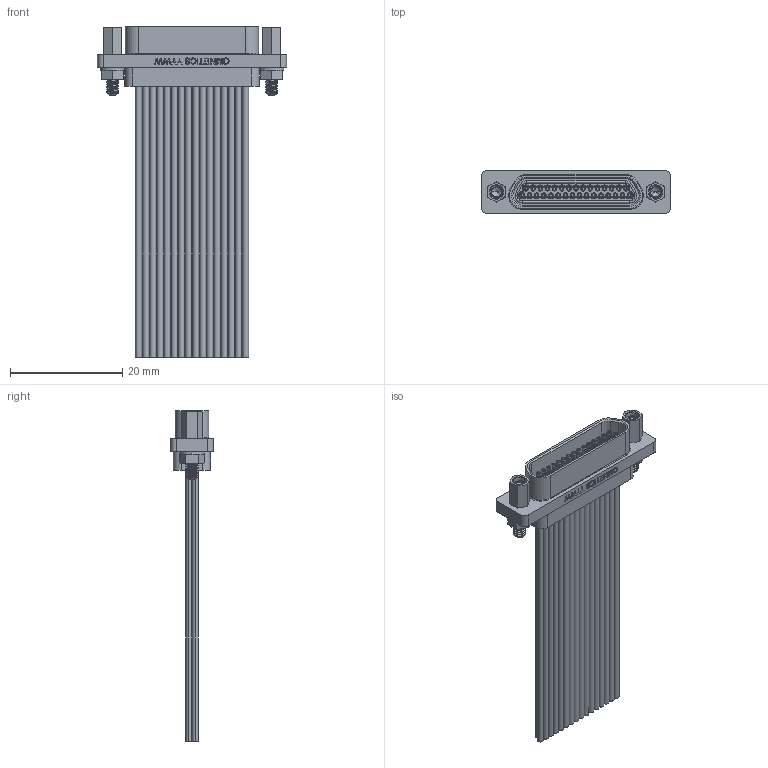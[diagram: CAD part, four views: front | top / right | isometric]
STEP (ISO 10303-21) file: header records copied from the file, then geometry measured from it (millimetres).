
FILE_DESCRIPTION (( 'STEP AP214' ), '1' );
FILE_NAME ('A99101-031 REV B.STEP', '2019-05-30T16:11:36', ( '' ), ( '' ), 'SwSTEP 2.0', 'SolidWorks 2019', '' );
FILE_SCHEMA (( 'AUTOMOTIVE_DESIGN' ));
Length unit declared in the file: inch
Products named in the file (1): A99101-031 REV B
Bounding box: 33.66 x 7.63 x 58.88 mm (x, y, z)
Volume: 2856.6 mm3; surface area: 8383.3 mm2
Topology: 1 solids, 35 shells, 1440 faces, 3284 edges, 2113 vertices
Faces by surface type: cylinder 700, plane 474, torus 137, bspline 66, cone 63
Entity records: 69500 total; most frequent: CARTESIAN_POINT 17788, DIRECTION 7236, ORIENTED_EDGE 6548, EDGE_CURVE 3274, AXIS2_PLACEMENT_3D 2981, VERTEX_POINT 2113, EDGE_LOOP 1721, CIRCLE 1606
